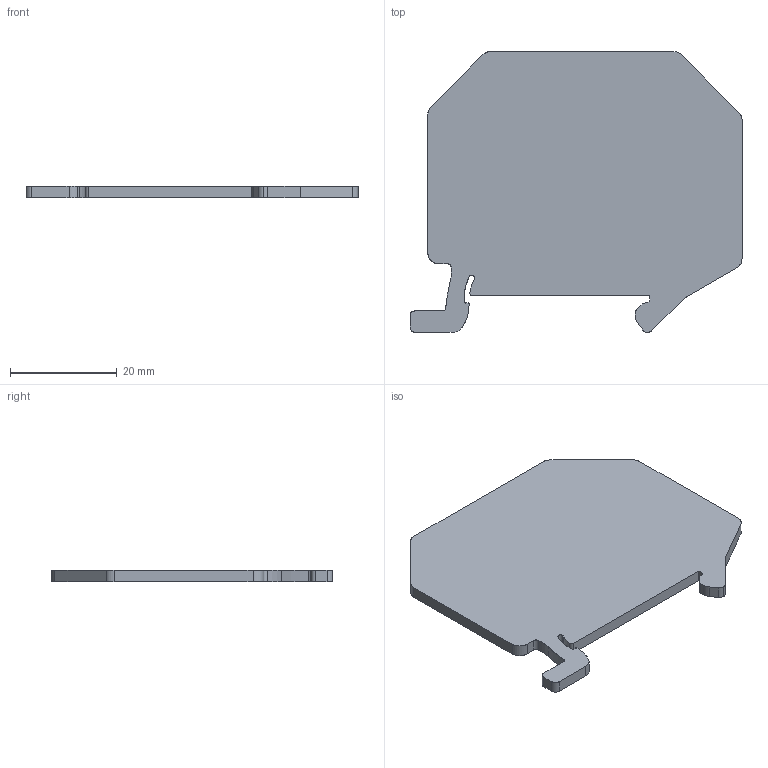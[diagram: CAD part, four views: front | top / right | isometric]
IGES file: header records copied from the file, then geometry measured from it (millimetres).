
Global section: file name: 3047183_atp_ut_twin_select.igs; native system: OneSpace Designer 3D IGES; preprocessor: 12.01C  26-Mar-2004; date: 20050302.085728; units: millimetre
Bounding box: 62.15 x 52.55 x 2.2 mm (x, y, z)
Surface area: 5695 mm2 (no closed solid volume)
Topology: 0 solids, 0 shells, 51 faces, 408 edges, 408 vertices
Faces by surface type: bspline 51
